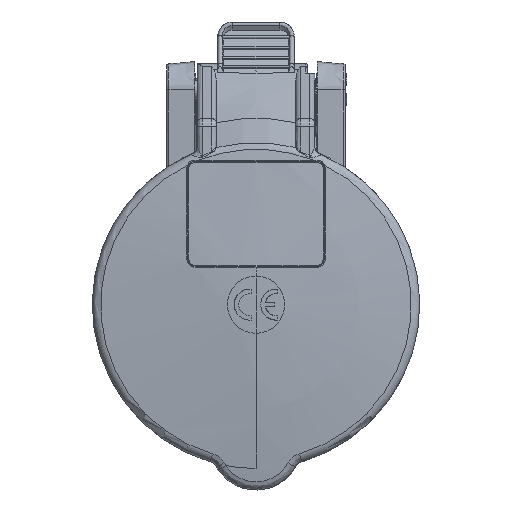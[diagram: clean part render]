
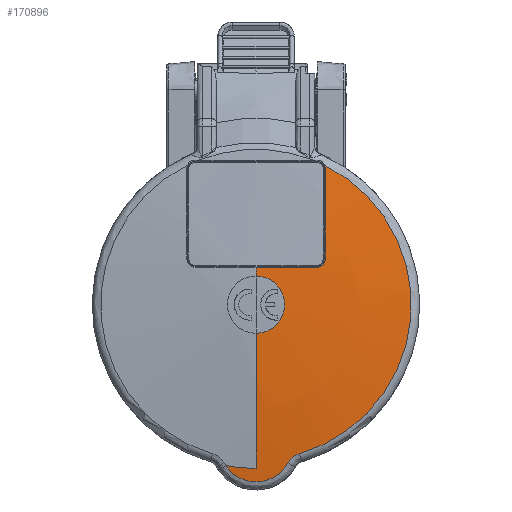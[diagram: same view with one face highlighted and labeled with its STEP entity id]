
A CAD part, top view. The second image highlights one B-rep face of the part: STEP entity #170896.
In plain terms, the highlighted spherical face has radius 250 mm.
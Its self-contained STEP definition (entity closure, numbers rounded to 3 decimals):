
#40737=CARTESIAN_POINT('',(14.329,29.182,8.977));
#40744=CARTESIAN_POINT('',(14.329,29.182,8.977));
#40745=CARTESIAN_POINT('',(14.358,29.112,8.984));
#40746=CARTESIAN_POINT('',(14.407,28.97,8.998));
#40747=CARTESIAN_POINT('',(14.451,28.749,9.021));
#40748=CARTESIAN_POINT('',(14.462,28.599,9.037));
#40749=CARTESIAN_POINT('',(14.462,28.523,9.046));
#40763=CARTESIAN_POINT('',(0.,0.,8.977));
#40764=DIRECTION('',(0.,0.,-1.));
#40765=DIRECTION('',(0.441,0.898,0.));
#40766=AXIS2_PLACEMENT_3D('',#40763,#40764,#40765);
#40768=CARTESIAN_POINT('',(0.,0.,8.743));
#40769=DIRECTION('',(0.,0.,-1.));
#40770=DIRECTION('',(0.,-1.,0.));
#40771=AXIS2_PLACEMENT_3D('',#40768,#40769,#40770);
#40773=CARTESIAN_POINT('',(6.633,-33.164,
8.802));
#40774=CARTESIAN_POINT('',(6.763,-32.927,
8.83));
#40775=CARTESIAN_POINT('',(7.061,-32.491,
8.879));
#40776=CARTESIAN_POINT('',(7.631,-31.933,
8.935));
#40777=CARTESIAN_POINT('',(8.303,-31.496,
8.969));
#40778=CARTESIAN_POINT('',(8.791,-31.3,
8.977));
#40779=CARTESIAN_POINT('',(9.049,-31.225,
8.977));
#40799=CARTESIAN_POINT('',(-6.338,-33.658,
8.743));
#40800=CARTESIAN_POINT('',(-6.099,-34.026,
8.699));
#40801=CARTESIAN_POINT('',(-5.564,-34.71,
8.617));
#40802=CARTESIAN_POINT('',(-4.594,-35.588,
8.512));
#40803=CARTESIAN_POINT('',(-3.49,-36.285,
8.429));
#40804=CARTESIAN_POINT('',(-2.285,-36.782,
8.37));
#40805=CARTESIAN_POINT('',(-1.014,-37.066,
8.336));
#40806=CARTESIAN_POINT('',(0.286,-37.129,
8.329));
#40807=CARTESIAN_POINT('',(1.579,-36.968,
8.348));
#40808=CARTESIAN_POINT('',(2.825,-36.589,
8.393));
#40809=CARTESIAN_POINT('',(3.99,-36.002,
8.463));
#40810=CARTESIAN_POINT('',(5.039,-35.223,
8.556));
#40811=CARTESIAN_POINT('',(5.941,-34.273,
8.67));
#40812=CARTESIAN_POINT('',(6.423,-33.549,
8.756));
#40813=CARTESIAN_POINT('',(6.633,-33.164,
8.802));
#40886=CARTESIAN_POINT('',(0.,0.,-238.9));
#40887=DIRECTION('',(1.,0.,0.));
#40888=DIRECTION('',(0.,0.031,1.));
#40889=AXIS2_PLACEMENT_3D('',#40886,#40887,#40888);
#40901=CARTESIAN_POINT('',(0.,0.,-238.9));
#40902=DIRECTION('',(-1.,0.,0.));
#40903=DIRECTION('',(0.,-0.137,0.991));
#40904=AXIS2_PLACEMENT_3D('',#40901,#40902,#40903);
#41244=CARTESIAN_POINT('',(14.462,28.523,9.046));
#41245=CARTESIAN_POINT('',(14.462,27.043,9.216));
#41246=CARTESIAN_POINT('',(14.462,24.247,9.511));
#41247=CARTESIAN_POINT('',(14.462,20.551,9.842));
#41248=CARTESIAN_POINT('',(14.462,17.308,10.087));
#41249=CARTESIAN_POINT('',(14.462,14.483,10.265));
#41250=CARTESIAN_POINT('',(14.462,11.935,10.4));
#41251=CARTESIAN_POINT('',(14.462,10.302,10.47));
#41252=CARTESIAN_POINT('',(14.462,9.508,10.5));
#41266=CARTESIAN_POINT('',(14.462,9.508,10.5));
#41267=CARTESIAN_POINT('',(14.462,9.351,10.506));
#41268=CARTESIAN_POINT('',(14.42,9.049,10.52));
#41269=CARTESIAN_POINT('',(14.237,8.621,10.546));
#41270=CARTESIAN_POINT('',(13.945,8.258,10.574));
#41271=CARTESIAN_POINT('',(13.572,7.99,10.604));
#41272=CARTESIAN_POINT('',(13.167,7.838,10.63));
#41273=CARTESIAN_POINT('',(12.897,7.806,10.645));
#41274=CARTESIAN_POINT('',(12.76,7.806,10.652));
#41291=CARTESIAN_POINT('',(12.76,7.806,10.652));
#41292=CARTESIAN_POINT('',(12.015,7.806,10.69));
#41293=CARTESIAN_POINT('',(10.606,7.806,10.756));
#41294=CARTESIAN_POINT('',(8.723,7.806,10.828));
#41295=CARTESIAN_POINT('',(7.066,7.806,10.88));
#41296=CARTESIAN_POINT('',(5.587,7.806,10.917));
#41297=CARTESIAN_POINT('',(4.192,7.806,10.944));
#41298=CARTESIAN_POINT('',(2.828,7.806,10.963));
#41299=CARTESIAN_POINT('',(1.409,7.806,10.975));
#41300=CARTESIAN_POINT('',(0.481,7.806,
10.978));
#41301=CARTESIAN_POINT('',(0.,7.806,10.978));
#41522=CARTESIAN_POINT('',(0.,0.,11.028));
#41523=DIRECTION('',(0.,0.,-1.));
#41524=DIRECTION('',(0.,1.,0.));
#41525=AXIS2_PLACEMENT_3D('',#41522,#41523,#41524);
#48622=VERTEX_POINT('',#40799);
#48623=VERTEX_POINT('',#40813);
#48626=VERTEX_POINT('',#40779);
#48628=CARTESIAN_POINT('',(0.,-34.25,8.743));
#48629=VERTEX_POINT('',#48628);
#48746=CARTESIAN_POINT('',(0.,-6.,11.028));
#48748=VERTEX_POINT('',#48746);
#48753=CARTESIAN_POINT('',(0.,6.,11.028));
#48754=VERTEX_POINT('',#48753);
#49015=VERTEX_POINT('',#40737);
#49016=VERTEX_POINT('',#40749);
#49019=VERTEX_POINT('',#41252);
#49021=VERTEX_POINT('',#41274);
#49023=VERTEX_POINT('',#41301);
#170869=CARTESIAN_POINT('',(0.,0.,-238.9));
#170870=DIRECTION('',(0.,0.,-1.));
#170871=DIRECTION('',(0.,-1.,0.));
#170872=AXIS2_PLACEMENT_3D('',#170869,#170870,#170871);
#170873=SPHERICAL_SURFACE('772',#170872,250.);
#170874=ORIENTED_EDGE('5279',*,*,#170847,.F.);
#170875=ORIENTED_EDGE('5300',*,*,#170694,.T.);
#170877=ORIENTED_EDGE('4879',*,*,#170876,.F.);
#170879=ORIENTED_EDGE('4877',*,*,#170878,.F.);
#170881=ORIENTED_EDGE('4881',*,*,#170880,.F.);
#170883=ORIENTED_EDGE('5008',*,*,#170882,.T.);
#170885=ORIENTED_EDGE('4995',*,*,#170884,.F.);
#170887=ORIENTED_EDGE('5302',*,*,#170886,.F.);
#170889=ORIENTED_EDGE('5285',*,*,#170888,.F.);
#170891=ORIENTED_EDGE('5283',*,*,#170890,.F.);
#170893=ORIENTED_EDGE('5281',*,*,#170892,.F.);
#170894=EDGE_LOOP('772',(#170874,#170875,#170877,#170879,#170881,#170883,
#170885,#170887,#170889,#170891,#170893));
#170895=FACE_OUTER_BOUND('772',#170894,.F.);
#40750=B_SPLINE_CURVE_WITH_KNOTS('5279',3,(#40744,#40745,#40746,#40747,#40748,
#40749),.UNSPECIFIED.,.F.,.F.,(4,1,1,4),(0.,0.333,
0.667,1.),.UNSPECIFIED.);
#40767=CIRCLE('5300',#40766,32.51);
#40772=CIRCLE('4881',#40771,34.25);
#40780=B_SPLINE_CURVE_WITH_KNOTS('4879',3,(#40773,#40774,#40775,#40776,#40777,
#40778,#40779),.UNSPECIFIED.,.F.,.F.,(4,1,1,1,4),(0.,0.25,0.5,0.75,
1.),.UNSPECIFIED.);
#40814=B_SPLINE_CURVE_WITH_KNOTS('4877',3,(#40799,#40800,#40801,#40802,#40803,
#40804,#40805,#40806,#40807,#40808,#40809,#40810,#40811,#40812,#40813),
.UNSPECIFIED.,.F.,.F.,(4,1,1,1,1,1,1,1,1,1,1,1,4),(0.,0.083,
0.167,0.25,0.333,0.417,0.5,
0.583,0.667,0.75,0.833,0.917,
1.),.UNSPECIFIED.);
#40890=CIRCLE('5302',#40889,250.);
#40905=CIRCLE('5008',#40904,250.);
#41253=B_SPLINE_CURVE_WITH_KNOTS('5281',3,(#41244,#41245,#41246,#41247,#41248,
#41249,#41250,#41251,#41252),.UNSPECIFIED.,.F.,.F.,(4,1,1,1,1,1,4),(0.,
0.167,0.333,0.5,0.667,0.833,
1.),.UNSPECIFIED.);
#41275=B_SPLINE_CURVE_WITH_KNOTS('5283',3,(#41266,#41267,#41268,#41269,#41270,
#41271,#41272,#41273,#41274),.UNSPECIFIED.,.F.,.F.,(4,1,1,1,1,1,4),(0.,
0.167,0.333,0.5,0.667,0.833,
1.),.UNSPECIFIED.);
#41302=B_SPLINE_CURVE_WITH_KNOTS('5285',3,(#41291,#41292,#41293,#41294,#41295,
#41296,#41297,#41298,#41299,#41300,#41301),.UNSPECIFIED.,.F.,.F.,(4,1,1,1,1,1,1,
1,4),(0.,0.125,0.25,0.375,0.5,0.625,0.75,0.875,1.),
.UNSPECIFIED.);
#41526=CIRCLE('4995',#41525,6.);
#170694=EDGE_CURVE('5300',#49015,#48626,#40767,.T.);
#170847=EDGE_CURVE('5279',#49015,#49016,#40750,.T.);
#170876=EDGE_CURVE('4879',#48623,#48626,#40780,.T.);
#170878=EDGE_CURVE('4877',#48622,#48623,#40814,.T.);
#170880=EDGE_CURVE('4881',#48629,#48622,#40772,.T.);
#170882=EDGE_CURVE('5008',#48629,#48748,#40905,.T.);
#170884=EDGE_CURVE('4995',#48754,#48748,#41526,.T.);
#170886=EDGE_CURVE('5302',#49023,#48754,#40890,.T.);
#170888=EDGE_CURVE('5285',#49021,#49023,#41302,.T.);
#170890=EDGE_CURVE('5283',#49019,#49021,#41275,.T.);
#170892=EDGE_CURVE('5281',#49016,#49019,#41253,.T.);
#170896=ADVANCED_FACE('772',(#170895),#170873,.T.);
